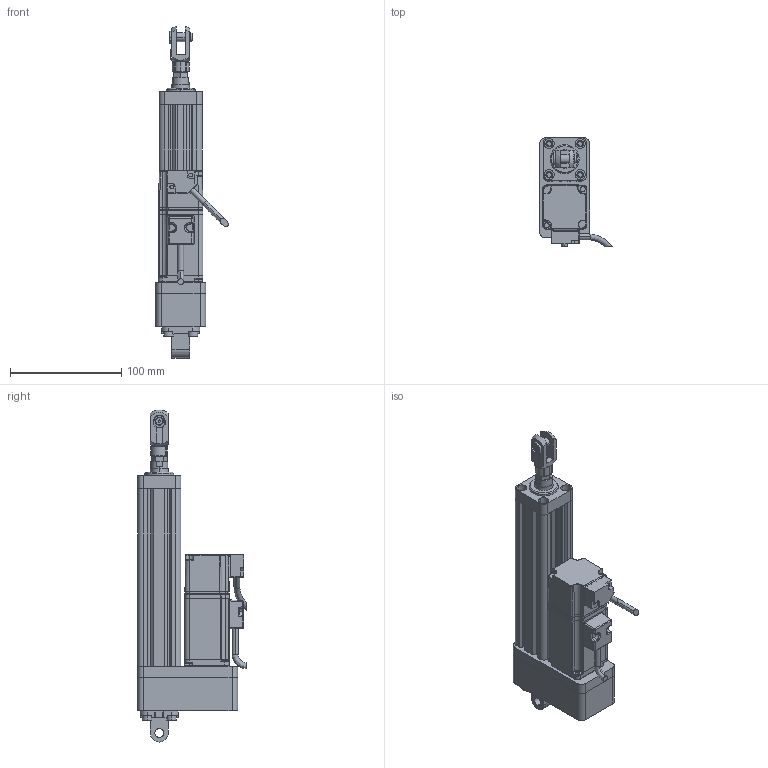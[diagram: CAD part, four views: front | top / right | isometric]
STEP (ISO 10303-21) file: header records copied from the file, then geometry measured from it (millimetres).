
FILE_DESCRIPTION (( 'STEP AP214' ), '1' );
FILE_NAME ('039-S100-D02-B-M5-C3-2.STEP', '2021-03-02T05:21:35', ( '' ), ( '' ), 'SwSTEP 2.0', 'SolidWorks 2018', '' );
FILE_SCHEMA (( 'AUTOMOTIVE_DESIGN' ));
Length unit declared in the file: millimetre
Products named in the file (10): CMC039-DT; ECMA-CX0401ES-40框號系列機種-100W低慣量系列; CMC039-GT; GB／T6174-2000六角薄螺母无倒角M8; 039-S100-D02-B-M5-C3-2; F-MA20Y; CMC039-HXT; F-ACE20CA_ACE_; CMC039-LJB; CMC039-FL
Assembly tree (9 placements, depth 2):
  039-S100-D02-B-M5-C3-2
    CMC039-GT
    CMC039-LJB
    CMC039-FL
    CMC039-DT
    ECMA-CX0401ES-40框號系列機種-100W低慣量系列
    CMC039-HXT
    F-ACE20CA_ACE_
    F-MA20Y
    GB／T6174-2000六角薄螺母无倒角M8
Bounding box: 65.34 x 97.89 x 299 mm (x, y, z)
Volume: 436821.4 mm3; surface area: 134680.9 mm2
Topology: 9 solids, 17 shells, 869 faces, 2270 edges, 1428 vertices
Faces by surface type: plane 355, cylinder 349, bspline 96, cone 69
Entity records: 33330 total; most frequent: CARTESIAN_POINT 12484, ORIENTED_EDGE 4474, DIRECTION 3863, EDGE_CURVE 2237, VERTEX_POINT 1428, AXIS2_PLACEMENT_3D 1376, LINE 1111, VECTOR 1111
